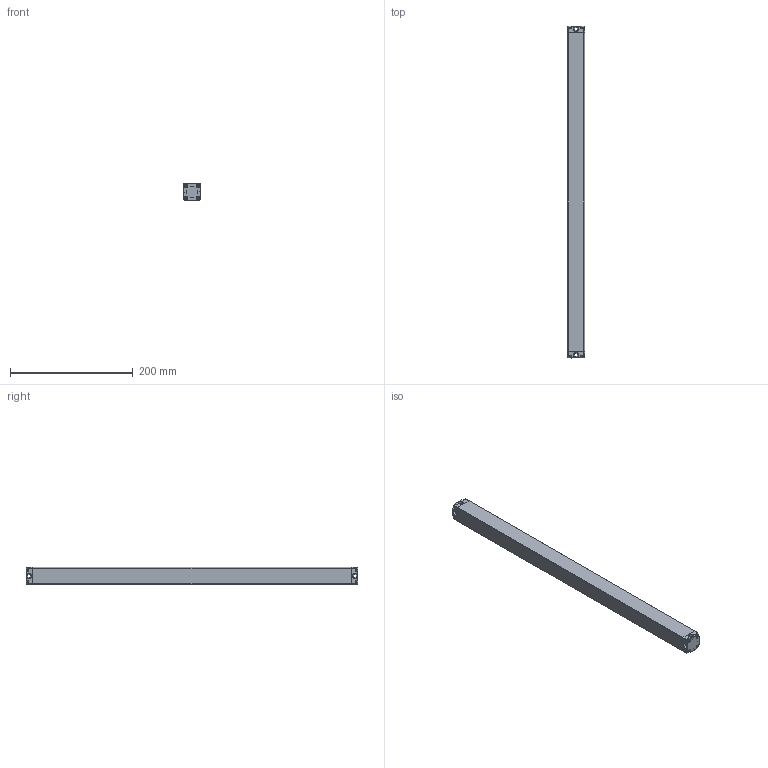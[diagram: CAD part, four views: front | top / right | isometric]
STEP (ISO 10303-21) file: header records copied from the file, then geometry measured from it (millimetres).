
FILE_DESCRIPTION((''),'2;1');
FILE_NAME('ELD00_ASM','2021-07-20T09:25:42',('18720616900'),(''),'CREO PARAMETRIC BY PTC INC, 2019010','CREO PARAMETRIC BY PTC INC, 2019010','');
FILE_SCHEMA(('CONFIG_CONTROL_DESIGN'));
Length unit declared in the file: millimetre
Products named in the file (6): ELD--00; ELD--000; ST-3-12; ELD00_ASM
Assembly tree (12 placements, depth 2):
  ELD00_ASM
    ELD--00
    ELD--000
    ELD--000
    ELD--000
    ST-3-12  x8
Bounding box: 28 x 542 x 28 mm (x, y, z)
Volume: 420701.4 mm3; surface area: 92119.7 mm2
Topology: 12 solids, 12 shells, 792 faces, 2082 edges, 1296 vertices
Faces by surface type: plane 236, cone 172, bspline 168, cylinder 156, torus 44, sphere 16
Entity records: 14414 total; most frequent: CARTESIAN_POINT 6863, ORIENTED_EDGE 1584, DIRECTION 1469, EDGE_CURVE 792, AXIS2_PLACEMENT_3D 520, VERTEX_POINT 491, VECTOR 429, LINE 429
